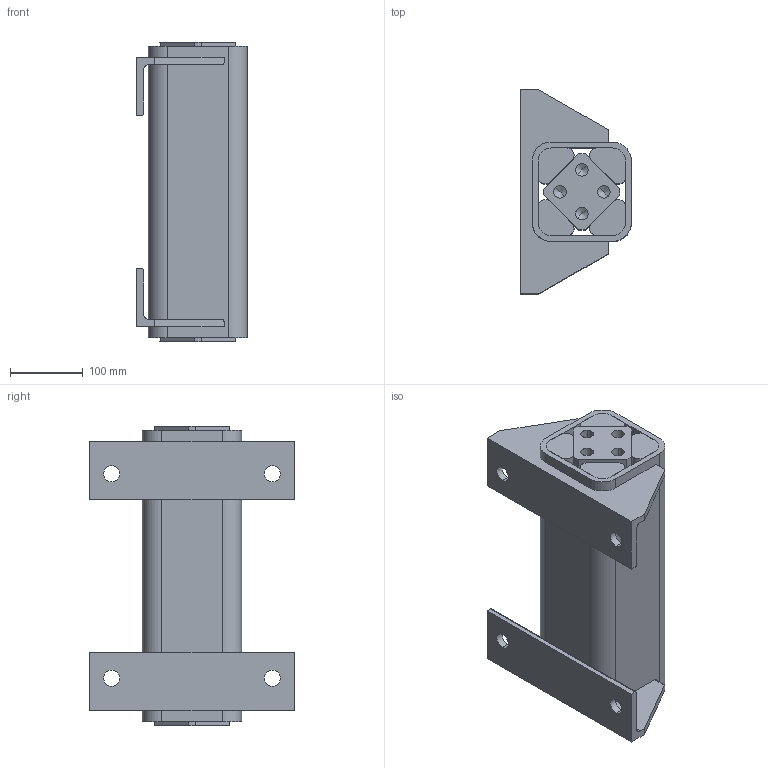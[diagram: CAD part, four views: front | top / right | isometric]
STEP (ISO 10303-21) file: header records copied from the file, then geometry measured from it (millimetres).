
FILE_DESCRIPTION((''),'2;1');
FILE_NAME('D:\ROSTA\Gummifederelemente\3D\DW-A80x400_01101009.stp','2005-02-12T04:03:07',('Administrator'),(''),'Autodesk Inventor 8','Autodesk Inventor 8','');
FILE_SCHEMA(('AUTOMOTIVE_DESIGN { 1 0 10303 214 1 1 1 1 }'));
Length unit declared in the file: millimetre
Products named in the file (5): 2.4.4813-010; 2.4.4813-011; 2.4.4813-012; 2.4.4813-014; 2.4.4813-013
Assembly tree (8 placements, depth 2):
  2.4.4813-010
    2.4.4813-011
    2.4.4813-012
    2.4.4813-014  x4
    2.4.4813-013  x2
Bounding box: 152 x 280 x 410 mm (x, y, z)
Volume: 7411333.1 mm3; surface area: 965192.2 mm2
Topology: 8 solids, 8 shells, 142 faces, 362 edges, 228 vertices
Faces by surface type: plane 66, cylinder 44, bspline 32
Entity records: 3315 total; most frequent: CARTESIAN_POINT 1033, DIRECTION 451, ORIENTED_EDGE 446, EDGE_CURVE 223, AXIS2_PLACEMENT_3D 156, VERTEX_POINT 146, VECTOR 139, LINE 139
